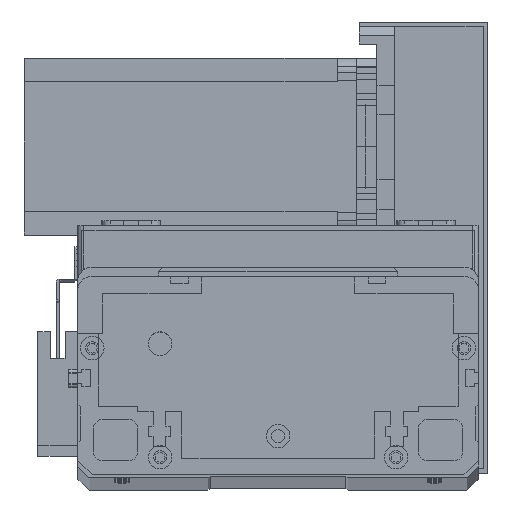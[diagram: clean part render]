
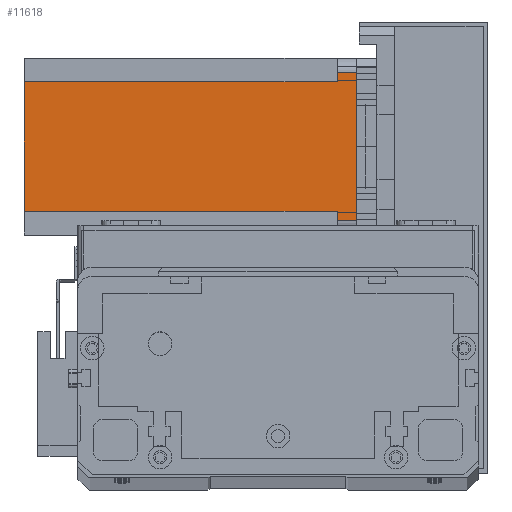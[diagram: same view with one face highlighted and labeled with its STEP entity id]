
A CAD part, top view. The second image highlights one B-rep face of the part: STEP entity #11618.
In plain terms, the highlighted planar face has unit normal (0, 0, 1) as drawn and (0, 1, 0) by its records, which use the part's own axes.
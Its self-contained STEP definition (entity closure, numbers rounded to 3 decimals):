
#107 = CARTESIAN_POINT ( 'NONE',  ( 55., 60., 0. ) ) ;
#108 = EDGE_CURVE ( 'NONE', #20494, #9557, #28134, .T. ) ;
#393 = DIRECTION ( 'NONE',  ( 1., 0., 0. ) ) ;
#573 = EDGE_CURVE ( 'NONE', #739, #9557, #28790, .T. ) ;
#599 = DIRECTION ( 'NONE',  ( 0., 0., 1. ) ) ;
#739 = VERTEX_POINT ( 'NONE', #26014 ) ;
#744 = DIRECTION ( 'NONE',  ( -1., 0., 0. ) ) ;
#808 = CARTESIAN_POINT ( 'NONE',  ( 52., 60., -112.5 ) ) ;
#873 = CARTESIAN_POINT ( 'NONE',  ( 0., 60., -112.5 ) ) ;
#893 = VERTEX_POINT ( 'NONE', #20975 ) ;
#983 = EDGE_CURVE ( 'NONE', #739, #893, #29458, .T. ) ;
#2160 = EDGE_CURVE ( 'NONE', #18647, #17342, #14271, .T. ) ;
#2238 = EDGE_CURVE ( 'NONE', #893, #17342, #23540, .T. ) ;
#2383 = LINE ( 'NONE', #6151, #25976 ) ;
#4721 = VECTOR ( 'NONE', #11009, 1000. ) ;
#5333 = VERTEX_POINT ( 'NONE', #9662 ) ;
#6151 = CARTESIAN_POINT ( 'NONE',  ( 55., 60., -112.5 ) ) ;
#6859 = LINE ( 'NONE', #24455, #12603 ) ;
#7106 = VECTOR ( 'NONE', #10123, 1000. ) ;
#9195 = CARTESIAN_POINT ( 'NONE',  ( 8., 60., -6.5 ) ) ;
#9557 = VERTEX_POINT ( 'NONE', #24289 ) ;
#9662 = CARTESIAN_POINT ( 'NONE',  ( 55., 60., -6.5 ) ) ;
#9921 = ORIENTED_EDGE ( 'NONE', *, *, #2238, .T. ) ;
#10016 = CARTESIAN_POINT ( 'NONE',  ( 0., 60., 0. ) ) ;
#10123 = DIRECTION ( 'NONE',  ( -1., 0., 0. ) ) ;
#10938 = CARTESIAN_POINT ( 'NONE',  ( 5., 60., -112.5 ) ) ;
#11009 = DIRECTION ( 'NONE',  ( 0., 0., 1. ) ) ;
#11618 = ADVANCED_FACE ( 'NONE', ( #16944 ), #23292, .T. ) ;
#12545 = CARTESIAN_POINT ( 'NONE',  ( 5., 60., 0. ) ) ;
#12603 = VECTOR ( 'NONE', #599, 1000. ) ;
#14271 = LINE ( 'NONE', #10016, #7106 ) ;
#15114 = CARTESIAN_POINT ( 'NONE',  ( 52., 60., -6.5 ) ) ;
#16099 = ORIENTED_EDGE ( 'NONE', *, *, #573, .F. ) ;
#16471 = ORIENTED_EDGE ( 'NONE', *, *, #983, .T. ) ;
#16898 = EDGE_LOOP ( 'NONE', ( #25504, #25185, #29322, #22367, #21313, #16099, #16471, #9921 ) ) ;
#16944 = FACE_OUTER_BOUND ( 'NONE', #16898, .T. ) ;
#17053 = LINE ( 'NONE', #15114, #29040 ) ;
#17342 = VERTEX_POINT ( 'NONE', #12545 ) ;
#18254 = CARTESIAN_POINT ( 'NONE',  ( 52., 60., -6.5 ) ) ;
#18647 = VERTEX_POINT ( 'NONE', #107 ) ;
#20494 = VERTEX_POINT ( 'NONE', #808 ) ;
#20574 = AXIS2_PLACEMENT_3D ( 'NONE', #23976, #23234, #23103 ) ;
#20975 = CARTESIAN_POINT ( 'NONE',  ( 5., 60., -6.5 ) ) ;
#21313 = ORIENTED_EDGE ( 'NONE', *, *, #108, .T. ) ;
#21360 = DIRECTION ( 'NONE',  ( -1., 0., 0. ) ) ;
#22367 = ORIENTED_EDGE ( 'NONE', *, *, #27140, .F. ) ;
#22432 = VERTEX_POINT ( 'NONE', #18254 ) ;
#23103 = DIRECTION ( 'NONE',  ( 0., 0., 1. ) ) ;
#23234 = DIRECTION ( 'NONE',  ( 0., 1., 0. ) ) ;
#23292 = PLANE ( 'NONE',  #20574 ) ;
#23540 = LINE ( 'NONE', #10938, #4721 ) ;
#23976 = CARTESIAN_POINT ( 'NONE',  ( 0., 60., -112.5 ) ) ;
#24175 = EDGE_CURVE ( 'NONE', #18647, #5333, #2383, .T. ) ;
#24253 = DIRECTION ( 'NONE',  ( 0., 0., -1. ) ) ;
#24289 = CARTESIAN_POINT ( 'NONE',  ( 8., 60., -112.5 ) ) ;
#24349 = CARTESIAN_POINT ( 'NONE',  ( 8., 60., -112.5 ) ) ;
#24455 = CARTESIAN_POINT ( 'NONE',  ( 52., 60., -112.5 ) ) ;
#24835 = DIRECTION ( 'NONE',  ( 0., 0., -1. ) ) ;
#25185 = ORIENTED_EDGE ( 'NONE', *, *, #24175, .T. ) ;
#25504 = ORIENTED_EDGE ( 'NONE', *, *, #2160, .F. ) ;
#25650 = EDGE_CURVE ( 'NONE', #22432, #5333, #17053, .T. ) ;
#25976 = VECTOR ( 'NONE', #24835, 1000. ) ;
#26014 = CARTESIAN_POINT ( 'NONE',  ( 8., 60., -6.5 ) ) ;
#26708 = VECTOR ( 'NONE', #744, 1000. ) ;
#27140 = EDGE_CURVE ( 'NONE', #20494, #22432, #6859, .T. ) ;
#28109 = VECTOR ( 'NONE', #24253, 1000. ) ;
#28134 = LINE ( 'NONE', #873, #26708 ) ;
#28763 = VECTOR ( 'NONE', #21360, 1000. ) ;
#28790 = LINE ( 'NONE', #24349, #28109 ) ;
#29040 = VECTOR ( 'NONE', #393, 1000. ) ;
#29322 = ORIENTED_EDGE ( 'NONE', *, *, #25650, .F. ) ;
#29458 = LINE ( 'NONE', #9195, #28763 ) ;
